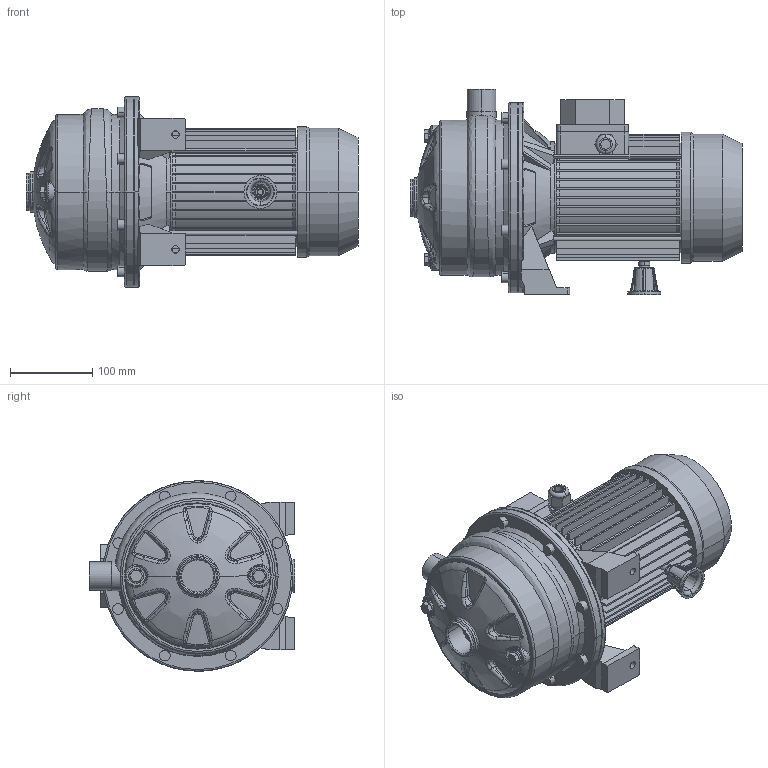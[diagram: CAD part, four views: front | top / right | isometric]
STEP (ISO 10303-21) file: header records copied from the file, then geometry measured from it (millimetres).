
FILE_DESCRIPTION((''),'2;1');
FILE_NAME('2CDX_120_30_IE3_ASM','2017-08-30T',('rosa'),('"Ebara Pumps Europe +39.444.706811"'),'PRO/ENGINEER BY PARAMETRIC TECHNOLOGY CORPORATION, 2012130','PRO/ENGINEER BY PARAMETRIC TECHNOLOGY CORPORATION, 2012130','');
FILE_SCHEMA(('AUTOMOTIVE_DESIGN { 1 0 10303 214 1 1 1 1 }'));
Products named in the file (6): MEC_80X130_IE3; 80563; 251420696; 72012; 72129; 2CDX_120_30_IE3_ASM
Assembly tree (5 placements, depth 2):
  2CDX_120_30_IE3_ASM
    MEC_80X130_IE3
    80563
    251420696
    72012
    72129
Bounding box: 404.5 x 250 x 232 mm (x, y, z)
Volume: 5402365.7 mm3; surface area: 683903.6 mm2
Topology: 5 solids, 5 shells, 978 faces, 2335 edges, 1412 vertices
Faces by surface type: plane 402, bspline 188, cylinder 184, cone 124, torus 74, sphere 6
Entity records: 48238 total; most frequent: CARTESIAN_POINT 18174, ORIENTED_EDGE 4670, DIRECTION 4207, EDGE_CURVE 2335, PRESENTATION_STYLE_ASSIGNMENT 2327, STYLED_ITEM 2327, CURVE_STYLE 2323, AXIS2_PLACEMENT_3D 1682
